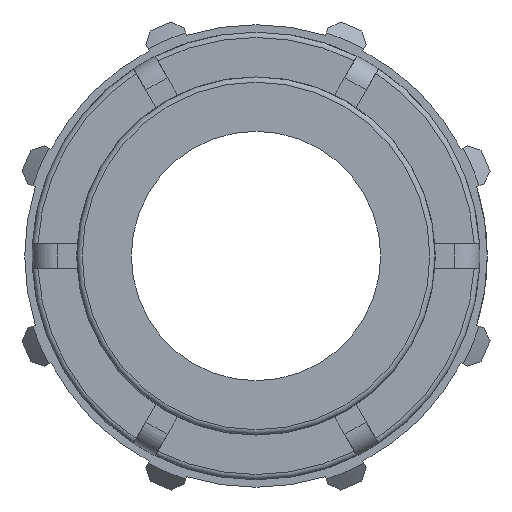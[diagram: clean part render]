
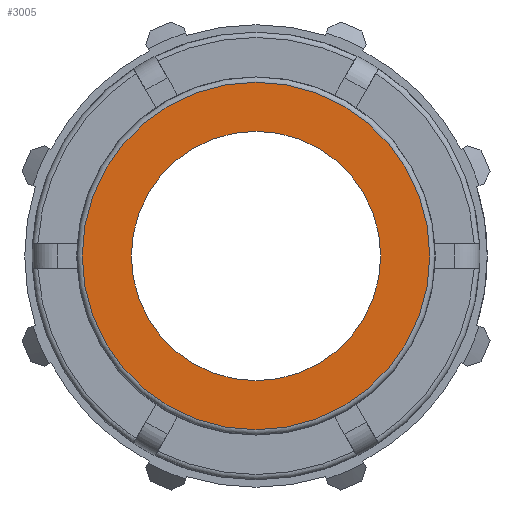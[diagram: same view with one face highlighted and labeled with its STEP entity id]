
A CAD part, left-side view. The second image highlights one B-rep face of the part: STEP entity #3005.
In plain terms, the highlighted planar face has unit normal (-1, 0, 0).
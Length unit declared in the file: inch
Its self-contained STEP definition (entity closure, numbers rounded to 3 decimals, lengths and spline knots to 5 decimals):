
#73=FACE_BOUND('',#858,.T.);
#586=PLANE('',#3254);
#696=FACE_OUTER_BOUND('',#857,.T.);
#857=EDGE_LOOP('',(#2253,#2254));
#858=EDGE_LOOP('',(#2255,#2256));
#1024=CIRCLE('',#3251,1.55468);
#1025=CIRCLE('',#3252,1.55468);
#1027=CIRCLE('',#3255,1.11528);
#1028=CIRCLE('',#3256,1.11528);
#1281=VERTEX_POINT('',#5077);
#1282=VERTEX_POINT('',#5079);
#1283=VERTEX_POINT('',#5084);
#1284=VERTEX_POINT('',#5085);
#1641=EDGE_CURVE('',#1281,#1282,#1024,.T.);
#1642=EDGE_CURVE('',#1282,#1281,#1025,.T.);
#1644=EDGE_CURVE('',#1283,#1284,#1027,.T.);
#1645=EDGE_CURVE('',#1284,#1283,#1028,.T.);
#2253=ORIENTED_EDGE('',*,*,#1642,.F.);
#2254=ORIENTED_EDGE('',*,*,#1641,.F.);
#2255=ORIENTED_EDGE('',*,*,#1644,.T.);
#2256=ORIENTED_EDGE('',*,*,#1645,.T.);
#3005=ADVANCED_FACE('',(#696,#73),#586,.T.);
#3251=AXIS2_PLACEMENT_3D('',#5080,#3792,#3793);
#3252=AXIS2_PLACEMENT_3D('',#5081,#3794,#3795);
#3254=AXIS2_PLACEMENT_3D('',#5083,#3798,#3799);
#3255=AXIS2_PLACEMENT_3D('',#5086,#3800,#3801);
#3256=AXIS2_PLACEMENT_3D('',#5087,#3802,#3803);
#3792=DIRECTION('center_axis',(1.,0.,0.));
#3793=DIRECTION('ref_axis',(0.,-1.,0.));
#3794=DIRECTION('center_axis',(1.,0.,0.));
#3795=DIRECTION('ref_axis',(0.,-1.,0.));
#3798=DIRECTION('center_axis',(-1.,0.,0.));
#3799=DIRECTION('ref_axis',(0.,0.,1.));
#3800=DIRECTION('center_axis',(1.,0.,0.));
#3801=DIRECTION('ref_axis',(0.,0.,-1.));
#3802=DIRECTION('center_axis',(1.,0.,0.));
#3803=DIRECTION('ref_axis',(0.,0.,-1.));
#5077=CARTESIAN_POINT('',(0.,0.,1.55468));
#5079=CARTESIAN_POINT('',(0.,1.55468,0.));
#5080=CARTESIAN_POINT('Origin',(0.,0.,0.));
#5081=CARTESIAN_POINT('Origin',(0.,0.,0.));
#5083=CARTESIAN_POINT('Origin',(0.,1.602,0.));
#5084=CARTESIAN_POINT('',(0.,1.11528,0.));
#5085=CARTESIAN_POINT('',(0.,-1.11528,0.));
#5086=CARTESIAN_POINT('Origin',(0.,0.,0.));
#5087=CARTESIAN_POINT('Origin',(0.,0.,0.));
